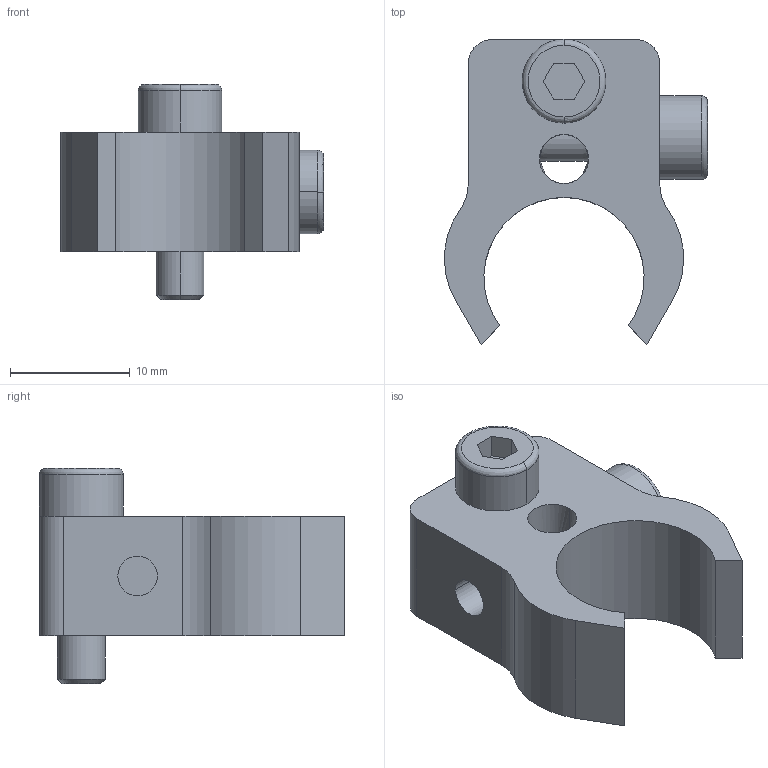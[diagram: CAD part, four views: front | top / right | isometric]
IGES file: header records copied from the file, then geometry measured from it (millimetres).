
Start section:  PTC IGES file: 1827020066\1827020066.iges
Global section: file name: 1827020066\1827020066.iges; native system: Creo Parametric by PTC Inc.; preprocessor: 2023092; author: GND7HC; organization: Unknown; date: 20240417.172523; units: millimetre
Bounding box: 22 x 25.5 x 18 mm (x, y, z)
Surface area: 2263.7 mm2 (no closed solid volume)
Topology: 0 solids, 0 shells, 55 faces, 266 edges, 265 vertices
Faces by surface type: bspline 28, revolution 27
